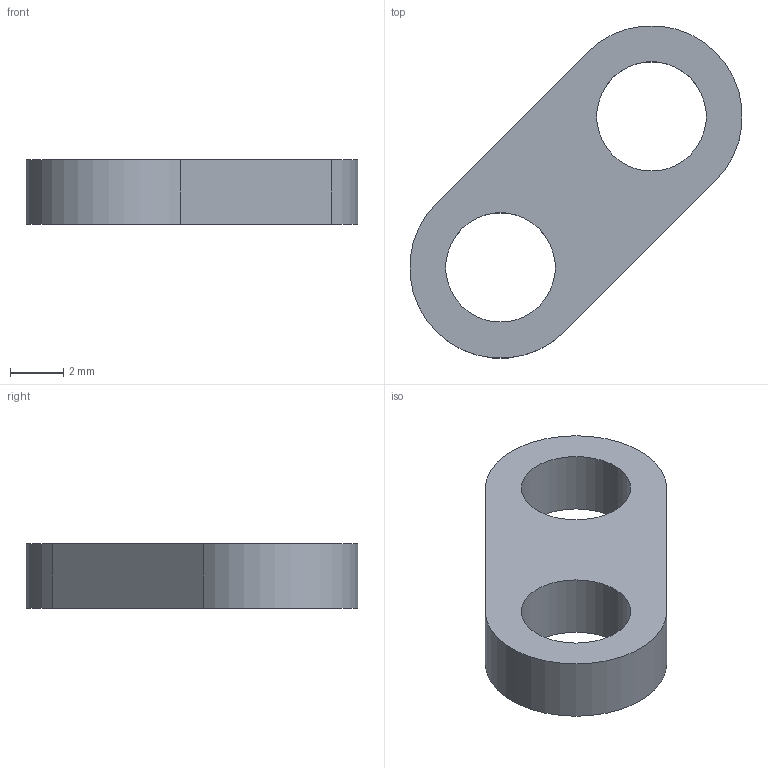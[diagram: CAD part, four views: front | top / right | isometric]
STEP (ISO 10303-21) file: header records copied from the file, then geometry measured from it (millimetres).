
FILE_DESCRIPTION(/* description */ (''),/* implementation_level */ '2;1');
FILE_NAME(/* name */ 'PTT_Link_2.step',/* time_stamp */ '2026-09-21T11:02:59-07:00',/* author */ (''),/* organization */ (''),/* preprocessor_version */ 'ST-DEVELOPER v20.2',/* originating_system */ 'Autodesk Translation Framework v15.15.0.0',/* authorisation */ '');
FILE_SCHEMA (('AUTOMOTIVE_DESIGN { 1 0 10303 214 3 1 1 }'));
Length unit declared in the file: millimetre
Products named in the file (1): 2026-09-21-11-02-59-249
Bounding box: 12.43 x 12.43 x 2.4 mm (x, y, z)
Volume: 154.3 mm3; surface area: 280.1 mm2
Topology: 1 solids, 1 shells, 8 faces, 18 edges, 12 vertices
Faces by surface type: cylinder 4, plane 4
Full cylindrical faces by diameter (mm): 4.1 x2
Entity records: 271 total; most frequent: DIRECTION 44, CARTESIAN_POINT 39, ORIENTED_EDGE 36, EDGE_CURVE 18, AXIS2_PLACEMENT_3D 17, EDGE_LOOP 12, VERTEX_POINT 12, LINE 10
